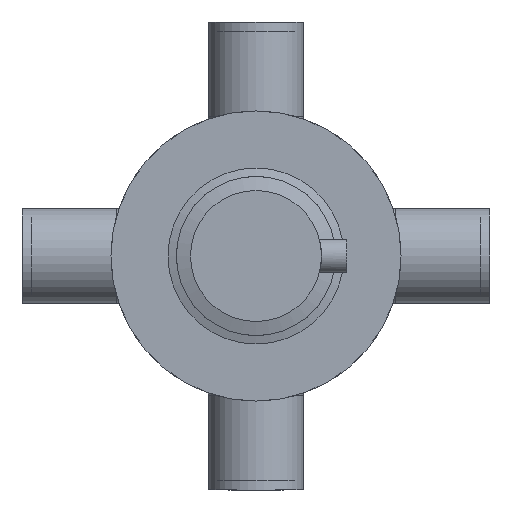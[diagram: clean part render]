
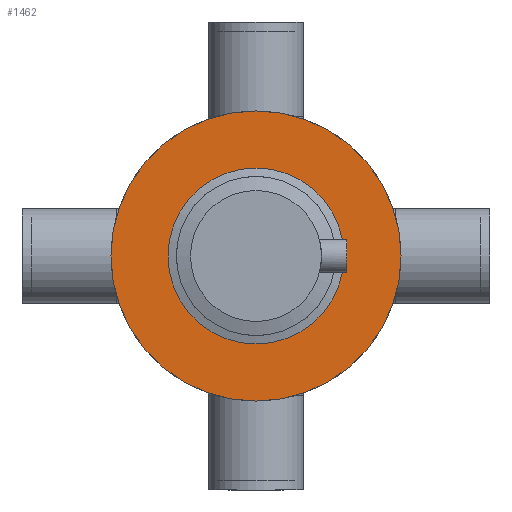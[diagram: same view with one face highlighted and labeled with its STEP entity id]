
A CAD part, front view. The second image highlights one B-rep face of the part: STEP entity #1462.
In plain terms, the highlighted planar face has unit normal (0, -1, 0).
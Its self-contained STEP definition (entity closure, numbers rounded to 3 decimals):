
#98=FACE_BOUND('',#324,.T.);
#126=PLANE('',#1753);
#209=FACE_OUTER_BOUND('',#323,.T.);
#323=EDGE_LOOP('',(#1253,#1254));
#324=EDGE_LOOP('',(#1255,#1256));
#555=CIRCLE('',#1751,42.5);
#556=CIRCLE('',#1752,42.5);
#557=CIRCLE('',#1754,77.5);
#558=CIRCLE('',#1755,77.5);
#708=VERTEX_POINT('',#2811);
#709=VERTEX_POINT('',#2813);
#710=VERTEX_POINT('',#2817);
#711=VERTEX_POINT('',#2818);
#898=EDGE_CURVE('',#709,#708,#555,.T.);
#899=EDGE_CURVE('',#708,#709,#556,.T.);
#900=EDGE_CURVE('',#710,#711,#557,.T.);
#901=EDGE_CURVE('',#711,#710,#558,.T.);
#1253=ORIENTED_EDGE('',*,*,#900,.F.);
#1254=ORIENTED_EDGE('',*,*,#901,.F.);
#1255=ORIENTED_EDGE('',*,*,#898,.T.);
#1256=ORIENTED_EDGE('',*,*,#899,.T.);
#1462=ADVANCED_FACE('',(#209,#98),#126,.F.);
#1751=AXIS2_PLACEMENT_3D('',#2814,#2221,#2222);
#1752=AXIS2_PLACEMENT_3D('',#2815,#2223,#2224);
#1753=AXIS2_PLACEMENT_3D('',#2816,#2225,#2226);
#1754=AXIS2_PLACEMENT_3D('',#2819,#2227,#2228);
#1755=AXIS2_PLACEMENT_3D('',#2820,#2229,#2230);
#2221=DIRECTION('center_axis',(0.,1.,0.));
#2222=DIRECTION('ref_axis',(1.,0.,0.));
#2223=DIRECTION('center_axis',(0.,1.,0.));
#2224=DIRECTION('ref_axis',(1.,0.,0.));
#2225=DIRECTION('center_axis',(0.,1.,0.));
#2226=DIRECTION('ref_axis',(0.,0.,1.));
#2227=DIRECTION('center_axis',(0.,1.,0.));
#2228=DIRECTION('ref_axis',(-1.,0.,0.));
#2229=DIRECTION('center_axis',(0.,1.,0.));
#2230=DIRECTION('ref_axis',(-1.,0.,0.));
#2811=CARTESIAN_POINT('',(42.5,-14.9,0.));
#2813=CARTESIAN_POINT('',(-42.5,-14.9,0.));
#2814=CARTESIAN_POINT('Origin',(0.,-14.9,0.));
#2815=CARTESIAN_POINT('Origin',(0.,-14.9,0.));
#2816=CARTESIAN_POINT('Origin',(-42.5,-14.9,0.));
#2817=CARTESIAN_POINT('',(-77.5,-14.9,0.));
#2818=CARTESIAN_POINT('',(77.5,-14.9,0.));
#2819=CARTESIAN_POINT('Origin',(0.,-14.9,0.));
#2820=CARTESIAN_POINT('Origin',(0.,-14.9,0.));
